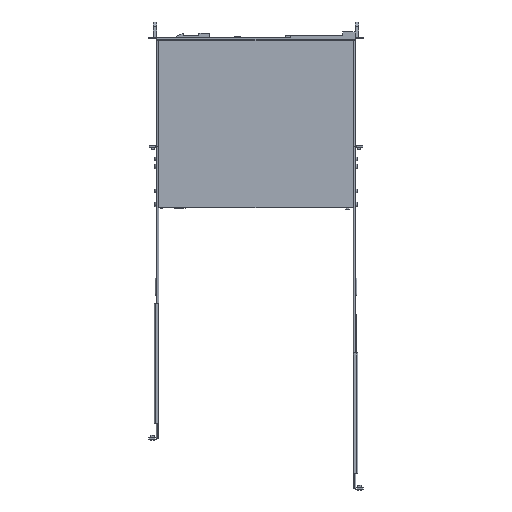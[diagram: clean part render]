
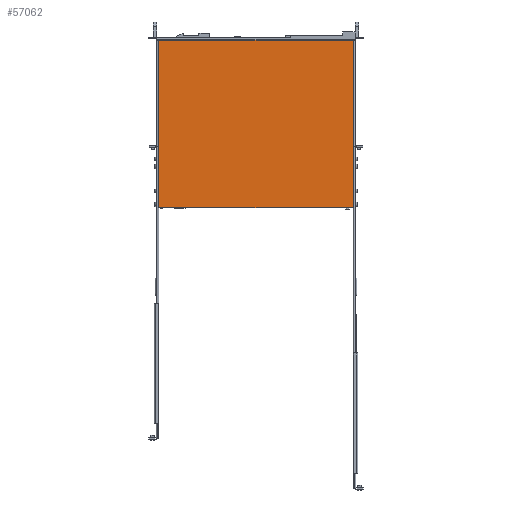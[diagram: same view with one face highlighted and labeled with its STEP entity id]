
A CAD part, front view. The second image highlights one B-rep face of the part: STEP entity #57062.
In plain terms, the highlighted planar face has unit normal (0, -1, 0).
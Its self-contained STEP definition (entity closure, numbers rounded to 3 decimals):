
#1819 = VECTOR ( 'NONE', #7257, 1000. ) ;
#2180 = LINE ( 'NONE', #44992, #62713 ) ;
#2428 = CARTESIAN_POINT ( 'NONE',  ( -234.101, -21.589, -202.135 ) ) ;
#3201 = ORIENTED_EDGE ( 'NONE', *, *, #105793, .T. ) ;
#4534 = FACE_OUTER_BOUND ( 'NONE', #84666, .T. ) ;
#7257 = DIRECTION ( 'NONE',  ( 0., 0., -1. ) ) ;
#13109 = PLANE ( 'NONE',  #13522 ) ;
#13522 = AXIS2_PLACEMENT_3D ( 'NONE', #2428, #133845, #39404 ) ;
#21485 = EDGE_CURVE ( 'NONE', #110954, #30263, #115823, .T. ) ;
#30263 = VERTEX_POINT ( 'NONE', #78871 ) ;
#33227 = VECTOR ( 'NONE', #82023, 1000. ) ;
#37670 = LINE ( 'NONE', #112764, #33227 ) ;
#38023 = CARTESIAN_POINT ( 'NONE',  ( -230.051, -21.589, 183.555 ) ) ;
#39404 = DIRECTION ( 'NONE',  ( 0., 0., -1. ) ) ;
#44062 = ORIENTED_EDGE ( 'NONE', *, *, #21485, .F. ) ;
#44992 = CARTESIAN_POINT ( 'NONE',  ( -234.101, -21.589, -202.135 ) ) ;
#45108 = EDGE_CURVE ( 'NONE', #115593, #75470, #136000, .T. ) ;
#57062 = ADVANCED_FACE ( 'NONE', ( #4534 ), #13109, .T. ) ;
#62713 = VECTOR ( 'NONE', #89991, 1000. ) ;
#65381 = EDGE_CURVE ( 'NONE', #115593, #110954, #37670, .T. ) ;
#68660 = CARTESIAN_POINT ( 'NONE',  ( -230.051, -21.589, 175.615 ) ) ;
#75470 = VERTEX_POINT ( 'NONE', #122489 ) ;
#78871 = CARTESIAN_POINT ( 'NONE',  ( 208.849, -21.589, -202.135 ) ) ;
#81052 = ORIENTED_EDGE ( 'NONE', *, *, #65381, .F. ) ;
#82023 = DIRECTION ( 'NONE',  ( 1., 0., 0. ) ) ;
#84666 = EDGE_LOOP ( 'NONE', ( #81052, #106599, #3201, #44062 ) ) ;
#89991 = DIRECTION ( 'NONE',  ( 1., 0., 0. ) ) ;
#93071 = DIRECTION ( 'NONE',  ( 0., 0., -1. ) ) ;
#104907 = CARTESIAN_POINT ( 'NONE',  ( 208.849, -21.589, 175.615 ) ) ;
#105134 = CARTESIAN_POINT ( 'NONE',  ( 208.849, -21.589, 183.555 ) ) ;
#105793 = EDGE_CURVE ( 'NONE', #75470, #30263, #2180, .T. ) ;
#106599 = ORIENTED_EDGE ( 'NONE', *, *, #45108, .T. ) ;
#110954 = VERTEX_POINT ( 'NONE', #104907 ) ;
#112764 = CARTESIAN_POINT ( 'NONE',  ( -234.101, -21.589, 175.615 ) ) ;
#115593 = VERTEX_POINT ( 'NONE', #68660 ) ;
#115823 = LINE ( 'NONE', #105134, #1819 ) ;
#121017 = VECTOR ( 'NONE', #93071, 1000. ) ;
#122489 = CARTESIAN_POINT ( 'NONE',  ( -230.051, -21.589, -202.135 ) ) ;
#133845 = DIRECTION ( 'NONE',  ( 0., -1., 0. ) ) ;
#136000 = LINE ( 'NONE', #38023, #121017 ) ;
